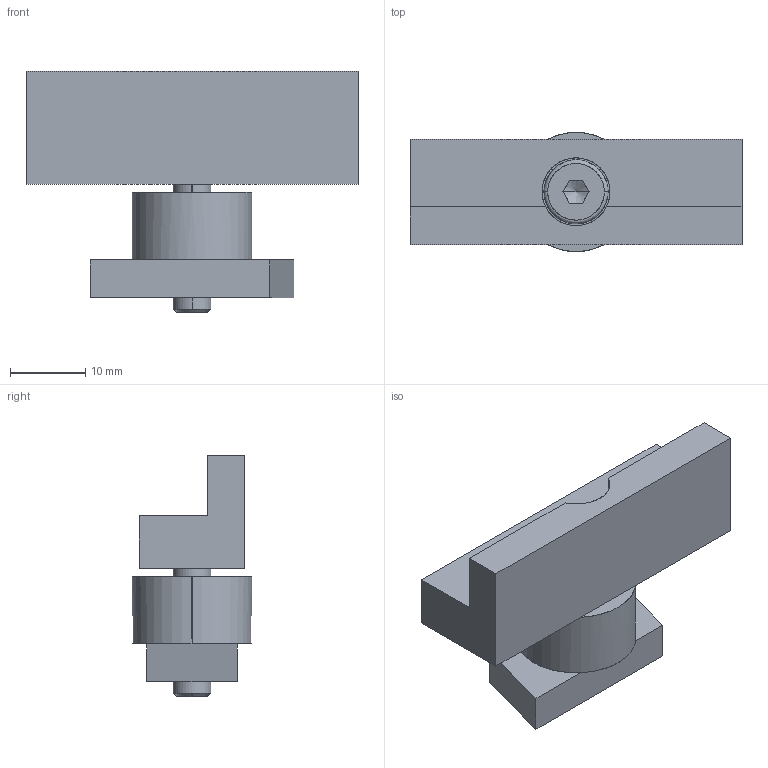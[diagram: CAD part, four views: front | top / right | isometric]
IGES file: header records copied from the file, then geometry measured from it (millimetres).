
Start section: SolidWorks IGES file using analytic representation for surfaces
Global section: file name: X:\11_SW2020-Inv2020\00_全2021-11新製品まで\m\MR-P-1\mr-p-1.IGS; native system: SolidWorks 2020; preprocessor: SolidWorks 2020; author: ImaoCorp; date: 211026.114617; units: millimetre
Bounding box: 44 x 15.8 x 32 mm (x, y, z)
Surface area: 5045.8 mm2 (no closed solid volume)
Topology: 0 solids, 0 shells, 48 faces, 560 edges, 558 vertices
Faces by surface type: bspline 32, revolution 16
